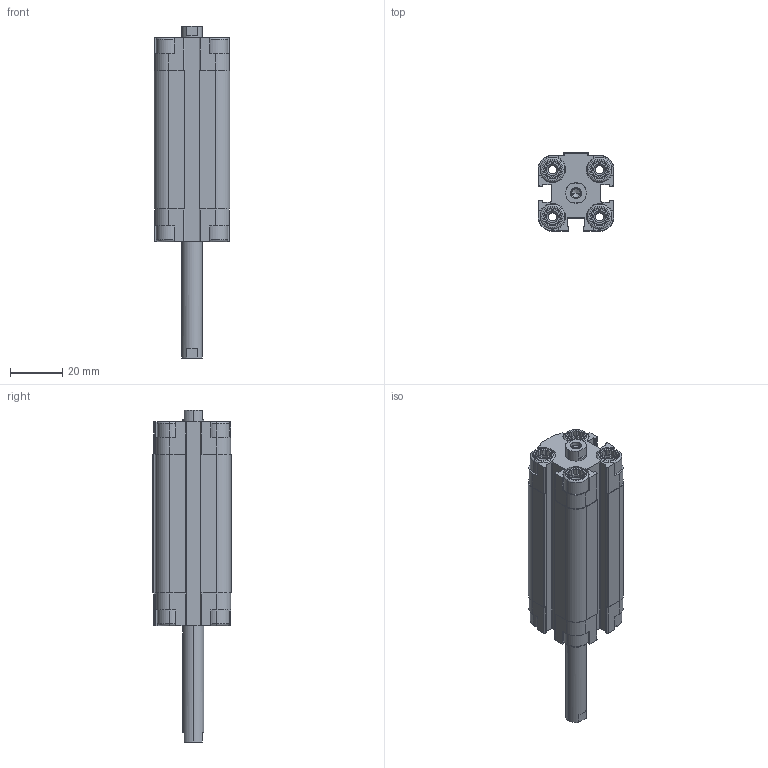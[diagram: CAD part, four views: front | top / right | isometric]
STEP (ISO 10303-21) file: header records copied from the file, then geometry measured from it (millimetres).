
FILE_DESCRIPTION (( 'STEP AP203' ), '1' );
FILE_NAME ('CDVU16-40F-P.STEP', '2020-07-24T18:04:58', ( '' ), ( '' ), 'SwSTEP 2.0', 'SolidWorks 2019', '' );
FILE_SCHEMA (( 'CONFIG_CONTROL_DESIGN' ));
Length unit declared in the file: millimetre
Products named in the file (1): CDVU16-40F-P
Bounding box: 29 x 30 x 127 mm (x, y, z)
Volume: 45155.8 mm3; surface area: 26727 mm2
Topology: 2 solids, 2 shells, 566 faces, 1508 edges, 980 vertices
Faces by surface type: plane 338, cylinder 164, cone 48, torus 16
Entity records: 17779 total; most frequent: CARTESIAN_POINT 3623, ORIENTED_EDGE 3000, DIRECTION 2850, EDGE_CURVE 1500, VERTEX_POINT 980, AXIS2_PLACEMENT_3D 975, LINE 900, VECTOR 900
